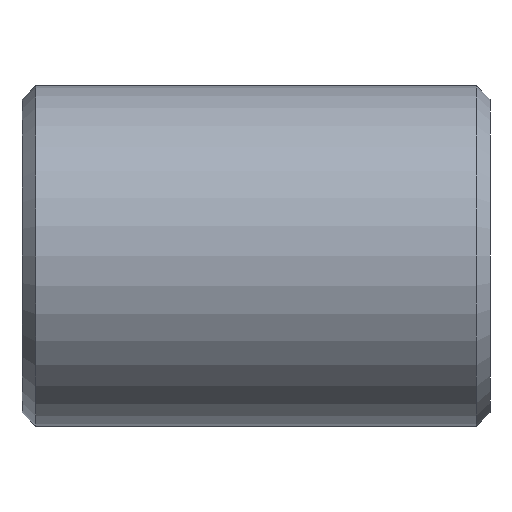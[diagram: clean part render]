
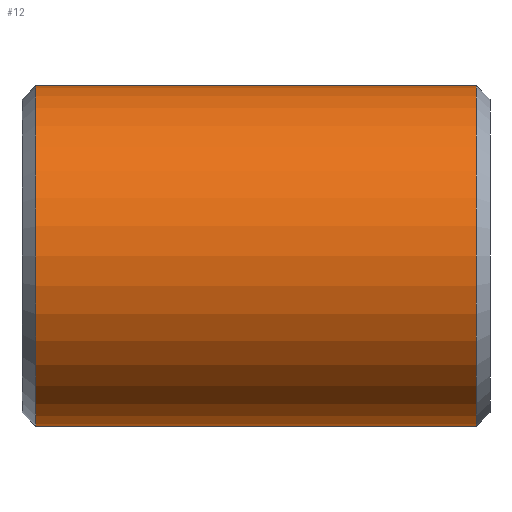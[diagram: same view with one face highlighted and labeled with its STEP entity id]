
A CAD part, front view. The second image highlights one B-rep face of the part: STEP entity #12.
In plain terms, the highlighted cylindrical face has radius 49.5 mm (diameter 99 mm), a partial arc.
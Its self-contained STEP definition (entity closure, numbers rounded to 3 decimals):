
#12 = ADVANCED_FACE ( 'NONE', ( #199 ), #42, .T. ) ;
#30 = AXIS2_PLACEMENT_3D ( 'NONE', #426, #194, #395 ) ;
#34 = VECTOR ( 'NONE', #440, 1000. ) ;
#37 = CIRCLE ( 'NONE', #30, 49.5 ) ;
#42 = CYLINDRICAL_SURFACE ( 'NONE', #96, 49.5 ) ;
#61 = CARTESIAN_POINT ( 'NONE',  ( 0., 0., 0. ) ) ;
#63 = DIRECTION ( 'NONE',  ( -1., 0., 0. ) ) ;
#79 = LINE ( 'NONE', #299, #294 ) ;
#87 = DIRECTION ( 'NONE',  ( -1., 0., 0. ) ) ;
#96 = AXIS2_PLACEMENT_3D ( 'NONE', #61, #278, #134 ) ;
#98 = VERTEX_POINT ( 'NONE', #399 ) ;
#109 = ORIENTED_EDGE ( 'NONE', *, *, #428, .T. ) ;
#118 = ORIENTED_EDGE ( 'NONE', *, *, #447, .T. ) ;
#129 = VERTEX_POINT ( 'NONE', #254 ) ;
#134 = DIRECTION ( 'NONE',  ( 0., 0., 1. ) ) ;
#138 = CARTESIAN_POINT ( 'NONE',  ( 4., 0., -49.5 ) ) ;
#187 = VERTEX_POINT ( 'NONE', #314 ) ;
#194 = DIRECTION ( 'NONE',  ( 1., 0., 0. ) ) ;
#199 = FACE_OUTER_BOUND ( 'NONE', #240, .T. ) ;
#220 = VERTEX_POINT ( 'NONE', #138 ) ;
#229 = ORIENTED_EDGE ( 'NONE', *, *, #302, .F. ) ;
#236 = EDGE_CURVE ( 'NONE', #129, #98, #427, .T. ) ;
#240 = EDGE_LOOP ( 'NONE', ( #229, #292, #118, #109 ) ) ;
#254 = CARTESIAN_POINT ( 'NONE',  ( 132., 0., -49.5 ) ) ;
#278 = DIRECTION ( 'NONE',  ( -1., 0., 0. ) ) ;
#282 = DIRECTION ( 'NONE',  ( 0., 0., 1. ) ) ;
#292 = ORIENTED_EDGE ( 'NONE', *, *, #236, .T. ) ;
#294 = VECTOR ( 'NONE', #87, 1000. ) ;
#299 = CARTESIAN_POINT ( 'NONE',  ( 0., 0., 49.5 ) ) ;
#302 = EDGE_CURVE ( 'NONE', #129, #220, #409, .T. ) ;
#313 = CARTESIAN_POINT ( 'NONE',  ( 132., 0., 0. ) ) ;
#314 = CARTESIAN_POINT ( 'NONE',  ( 4., 0., 49.5 ) ) ;
#379 = CARTESIAN_POINT ( 'NONE',  ( 0., 0., -49.5 ) ) ;
#389 = AXIS2_PLACEMENT_3D ( 'NONE', #313, #63, #282 ) ;
#395 = DIRECTION ( 'NONE',  ( 0., 0., -1. ) ) ;
#399 = CARTESIAN_POINT ( 'NONE',  ( 132., 0., 49.5 ) ) ;
#409 = LINE ( 'NONE', #379, #34 ) ;
#426 = CARTESIAN_POINT ( 'NONE',  ( 4., 0., 0. ) ) ;
#427 = CIRCLE ( 'NONE', #389, 49.5 ) ;
#428 = EDGE_CURVE ( 'NONE', #187, #220, #37, .T. ) ;
#440 = DIRECTION ( 'NONE',  ( -1., 0., 0. ) ) ;
#447 = EDGE_CURVE ( 'NONE', #98, #187, #79, .T. ) ;
